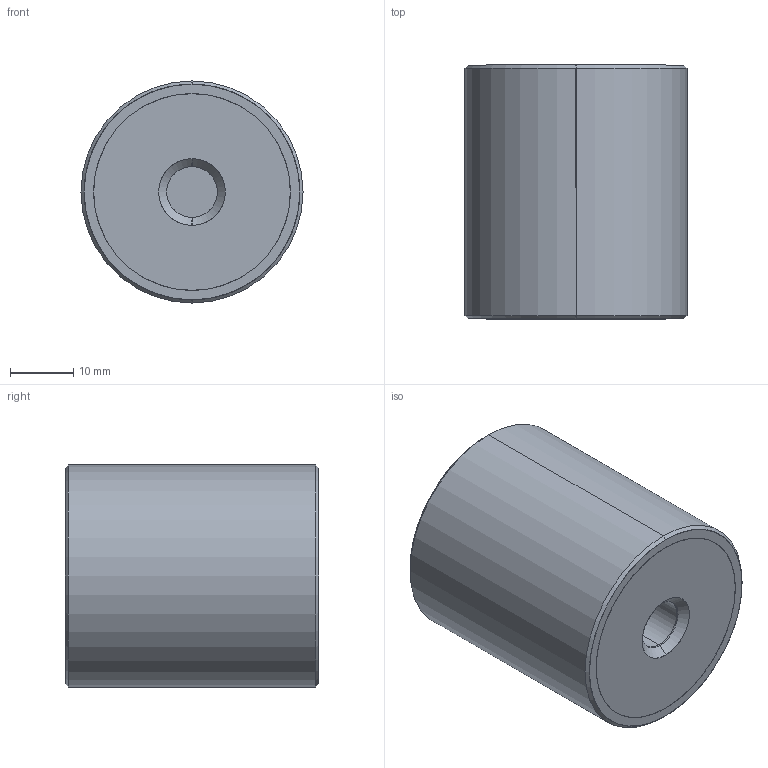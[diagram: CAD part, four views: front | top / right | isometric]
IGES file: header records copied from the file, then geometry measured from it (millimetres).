
Start section: SolidWorks IGES file using analytic representation for surfaces
Global section: file name: E:\WIXROYD 20180701\61080_v2\61080_v2_20180409_IGES\61080.W0351.igs; native system: SolidWorks 2017; preprocessor: SolidWorks 2017; author: liam_; date: 180716.214425; units: millimetre
Bounding box: 35 x 40 x 35 mm (x, y, z)
Surface area: 10029.1 mm2 (no closed solid volume)
Topology: 0 solids, 0 shells, 36 faces, 1000 edges, 1000 vertices
Faces by surface type: revolution 26, bspline 10
